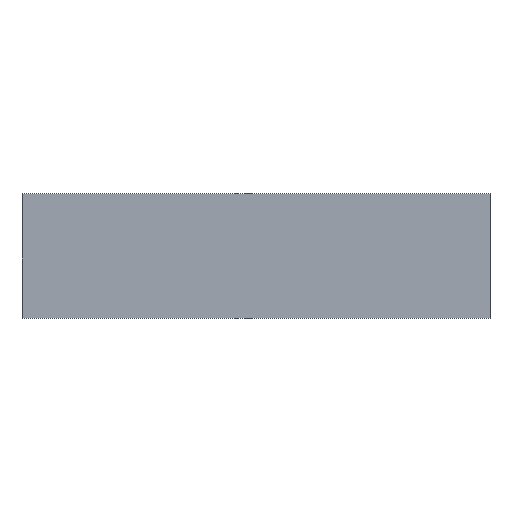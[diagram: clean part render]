
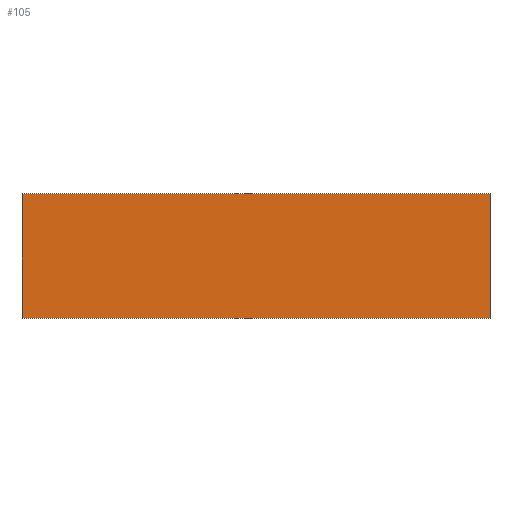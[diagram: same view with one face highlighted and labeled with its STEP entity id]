
A CAD part, top view. The second image highlights one B-rep face of the part: STEP entity #105.
In plain terms, the highlighted planar face has unit normal (0, 0, 1).
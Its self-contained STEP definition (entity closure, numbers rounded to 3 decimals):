
#2 = VECTOR ( 'NONE', #120, 1000. ) ;
#6 = VERTEX_POINT ( 'NONE', #118 ) ;
#9 = VECTOR ( 'NONE', #87, 1000. ) ;
#26 = VECTOR ( 'NONE', #186, 1000. ) ;
#27 = DIRECTION ( 'NONE',  ( 1., 0., 0. ) ) ;
#35 = EDGE_LOOP ( 'NONE', ( #51, #39, #174, #71 ) ) ;
#39 = ORIENTED_EDGE ( 'NONE', *, *, #63, .T. ) ;
#40 = DIRECTION ( 'NONE',  ( 1., 0., 0. ) ) ;
#41 = CARTESIAN_POINT ( 'NONE',  ( 0., 0., 25. ) ) ;
#43 = VECTOR ( 'NONE', #27, 1000. ) ;
#44 = CARTESIAN_POINT ( 'NONE',  ( -752.5, -200., 25. ) ) ;
#51 = ORIENTED_EDGE ( 'NONE', *, *, #67, .T. ) ;
#54 = EDGE_CURVE ( 'NONE', #133, #116, #77, .T. ) ;
#56 = CARTESIAN_POINT ( 'NONE',  ( 752.5, 200., 25. ) ) ;
#61 = LINE ( 'NONE', #125, #26 ) ;
#63 = EDGE_CURVE ( 'NONE', #145, #133, #104, .T. ) ;
#67 = EDGE_CURVE ( 'NONE', #6, #145, #89, .T. ) ;
#71 = ORIENTED_EDGE ( 'NONE', *, *, #180, .T. ) ;
#76 = CARTESIAN_POINT ( 'NONE',  ( 752.5, 200., 25. ) ) ;
#77 = LINE ( 'NONE', #56, #2 ) ;
#87 = DIRECTION ( 'NONE',  ( 0., -1., 0. ) ) ;
#89 = LINE ( 'NONE', #121, #9 ) ;
#104 = LINE ( 'NONE', #164, #43 ) ;
#105 = ADVANCED_FACE ( 'NONE', ( #137 ), #181, .T. ) ;
#116 = VERTEX_POINT ( 'NONE', #76 ) ;
#118 = CARTESIAN_POINT ( 'NONE',  ( -752.5, 200., 25. ) ) ;
#120 = DIRECTION ( 'NONE',  ( 0., 1., 0. ) ) ;
#121 = CARTESIAN_POINT ( 'NONE',  ( -752.5, 200., 25. ) ) ;
#125 = CARTESIAN_POINT ( 'NONE',  ( -752.5, 200., 25. ) ) ;
#127 = AXIS2_PLACEMENT_3D ( 'NONE', #41, #179, #40 ) ;
#133 = VERTEX_POINT ( 'NONE', #139 ) ;
#137 = FACE_OUTER_BOUND ( 'NONE', #35, .T. ) ;
#139 = CARTESIAN_POINT ( 'NONE',  ( 752.5, -200., 25. ) ) ;
#145 = VERTEX_POINT ( 'NONE', #44 ) ;
#164 = CARTESIAN_POINT ( 'NONE',  ( -752.5, -200., 25. ) ) ;
#174 = ORIENTED_EDGE ( 'NONE', *, *, #54, .T. ) ;
#179 = DIRECTION ( 'NONE',  ( 0., 0., 1. ) ) ;
#180 = EDGE_CURVE ( 'NONE', #116, #6, #61, .T. ) ;
#181 = PLANE ( 'NONE',  #127 ) ;
#186 = DIRECTION ( 'NONE',  ( -1., 0., 0. ) ) ;
